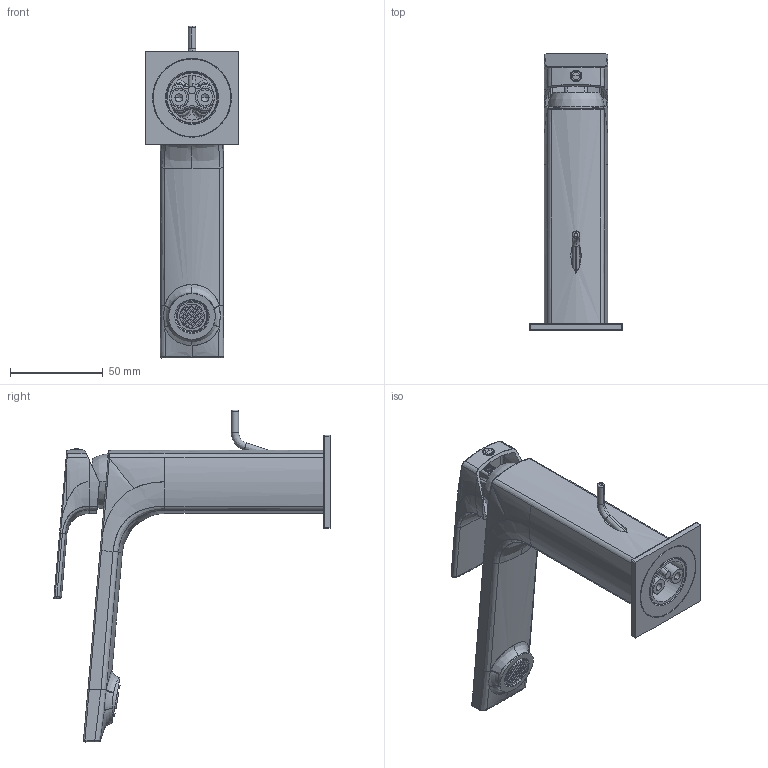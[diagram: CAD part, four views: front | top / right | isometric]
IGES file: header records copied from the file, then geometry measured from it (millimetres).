
Start section:  PTC IGES file: 75054_sw0001.igs
Global section: file name: 75054_sw0001.igs; native system: Creo Parametric by PTC Inc.; preprocessor: 2022014; author: volponeff; organization: Unknown; date: 20241007.085636; units: millimetre
Bounding box: 50 x 148.59 x 178.64 mm (x, y, z)
Surface area: 81217 mm2 (no closed solid volume)
Topology: 0 solids, 0 shells, 1493 faces, 7585 edges, 7512 vertices
Faces by surface type: revolution 822, bspline 671
